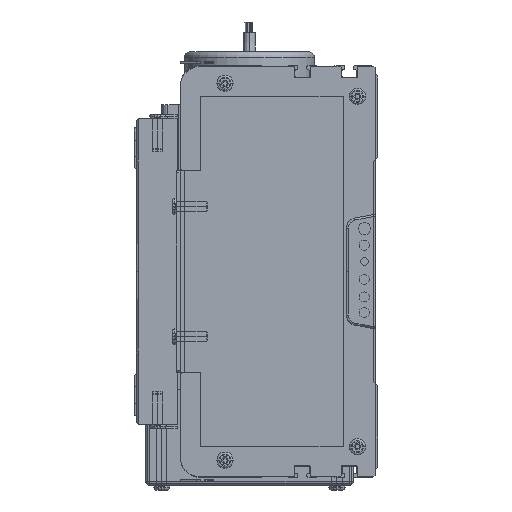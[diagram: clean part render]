
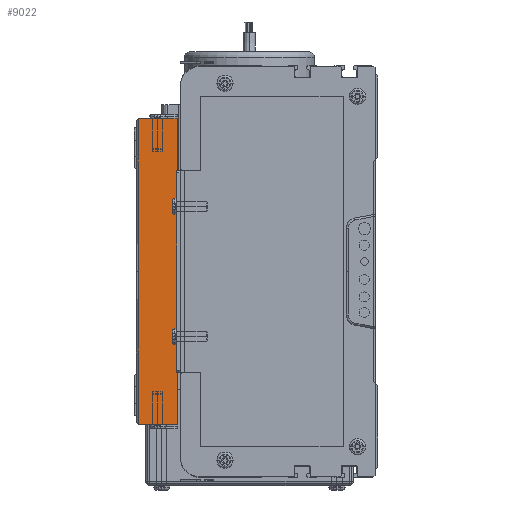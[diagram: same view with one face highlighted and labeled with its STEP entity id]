
A CAD part, left-side view. The second image highlights one B-rep face of the part: STEP entity #9022.
In plain terms, the highlighted planar face has unit normal (-1, 0, 0).
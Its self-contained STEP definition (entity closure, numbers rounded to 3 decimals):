
#8703 = EDGE_CURVE ( 'NONE', #9199, #9169, #90109, .T. ) ;
#8729 = ORIENTED_EDGE ( 'NONE', *, *, #8827, .T. ) ;
#8742 = VERTEX_POINT ( 'NONE', #90029 ) ;
#8827 = EDGE_CURVE ( 'NONE', #8742, #8970, #90243, .T. ) ;
#8835 = ORIENTED_EDGE ( 'NONE', *, *, #8885, .T. ) ;
#8837 = ORIENTED_EDGE ( 'NONE', *, *, #8703, .T. ) ;
#8884 = EDGE_CURVE ( 'NONE', #9058, #8742, #90297, .T. ) ;
#8885 = EDGE_CURVE ( 'NONE', #8970, #9199, #90233, .T. ) ;
#8946 = ORIENTED_EDGE ( 'NONE', *, *, #9138, .F. ) ;
#8970 = VERTEX_POINT ( 'NONE', #90339 ) ;
#8996 = EDGE_LOOP ( 'NONE', ( #8946, #9021, #8729, #8835, #8837 ) ) ;
#9021 = ORIENTED_EDGE ( 'NONE', *, *, #8884, .T. ) ;
#9022 = ADVANCED_FACE ( 'NONE', ( #90251 ), #90249, .F. ) ;
#9058 = VERTEX_POINT ( 'NONE', #90271 ) ;
#9138 = EDGE_CURVE ( 'NONE', #9058, #9169, #90570, .T. ) ;
#9169 = VERTEX_POINT ( 'NONE', #90453 ) ;
#9199 = VERTEX_POINT ( 'NONE', #90554 ) ;
#89999 = VECTOR ( 'NONE', #90053, 1000. ) ;
#90029 = CARTESIAN_POINT ( 'NONE',  ( 0., 19., 0. ) ) ;
#90053 = DIRECTION ( 'NONE',  ( 0., 0., 1. ) ) ;
#90054 = CARTESIAN_POINT ( 'NONE',  ( 0., 0., 0. ) ) ;
#90109 = LINE ( 'NONE', #90054, #89999 ) ;
#90160 = DIRECTION ( 'NONE',  ( 0., 0., -1. ) ) ;
#90161 = VECTOR ( 'NONE', #90160, 1000. ) ;
#90170 = DIRECTION ( 'NONE',  ( 0., -1., 0. ) ) ;
#90171 = VECTOR ( 'NONE', #90170, 1000. ) ;
#90175 = DIRECTION ( 'NONE',  ( 0., 0., -1. ) ) ;
#90176 = DIRECTION ( 'NONE',  ( 1., 0., 0. ) ) ;
#90177 = CARTESIAN_POINT ( 'NONE',  ( 0., 20., 0. ) ) ;
#90232 = CARTESIAN_POINT ( 'NONE',  ( 0., 20., -75. ) ) ;
#90233 = LINE ( 'NONE', #90232, #90171 ) ;
#90235 = DIRECTION ( 'NONE',  ( 0., 0., -1. ) ) ;
#90236 = VECTOR ( 'NONE', #90235, 1000. ) ;
#90242 = CARTESIAN_POINT ( 'NONE',  ( 0., 19., 0. ) ) ;
#90243 = LINE ( 'NONE', #90242, #90161 ) ;
#90249 = PLANE ( 'NONE',  #90250 ) ;
#90250 = AXIS2_PLACEMENT_3D ( 'NONE', #90177, #90176, #90175 ) ;
#90251 = FACE_OUTER_BOUND ( 'NONE', #8996, .T. ) ;
#90271 = CARTESIAN_POINT ( 'NONE',  ( 0., 19., 75. ) ) ;
#90297 = LINE ( 'NONE', #90299, #90236 ) ;
#90299 = CARTESIAN_POINT ( 'NONE',  ( 0., 19., 0. ) ) ;
#90339 = CARTESIAN_POINT ( 'NONE',  ( 0., 19., -75. ) ) ;
#90453 = CARTESIAN_POINT ( 'NONE',  ( 0., 0., 75. ) ) ;
#90495 = DIRECTION ( 'NONE',  ( 0., -1., 0. ) ) ;
#90496 = VECTOR ( 'NONE', #90495, 1000. ) ;
#90504 = CARTESIAN_POINT ( 'NONE',  ( 0., 20., 75. ) ) ;
#90554 = CARTESIAN_POINT ( 'NONE',  ( 0., 0., -75. ) ) ;
#90570 = LINE ( 'NONE', #90504, #90496 ) ;
